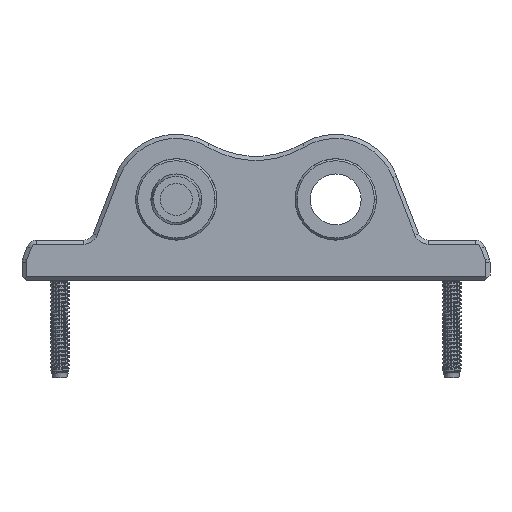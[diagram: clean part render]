
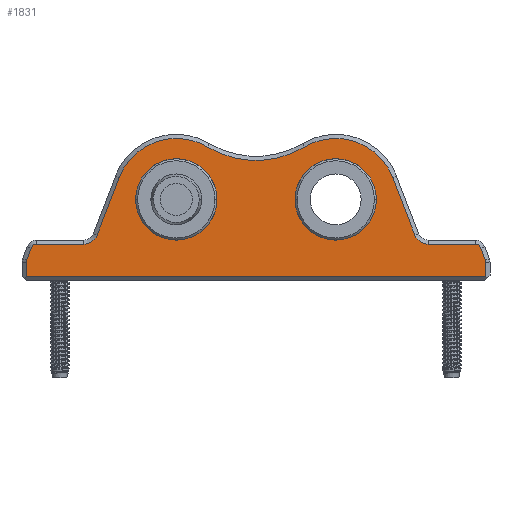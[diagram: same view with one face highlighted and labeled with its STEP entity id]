
A CAD part, front view. The second image highlights one B-rep face of the part: STEP entity #1831.
In plain terms, the highlighted planar face has unit normal (0, -1, 0).
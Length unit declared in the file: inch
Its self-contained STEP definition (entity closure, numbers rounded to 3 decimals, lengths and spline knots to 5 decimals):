
#2=CARTESIAN_POINT('',(-0.97959,-0.3075,1.));
#3=DIRECTION('',(0.,-1.,0.));
#4=DIRECTION('',(1.,0.,0.));
#5=AXIS2_PLACEMENT_3D('',#2,#3,#4);
#7=CARTESIAN_POINT('',(-0.97959,-0.3075,1.));
#8=DIRECTION('',(0.,-1.,0.));
#9=DIRECTION('',(-1.,0.,0.));
#10=AXIS2_PLACEMENT_3D('',#7,#8,#9);
#12=CARTESIAN_POINT('',(0.97959,-0.3075,1.));
#13=DIRECTION('',(0.,-1.,0.));
#14=DIRECTION('',(1.,0.,0.));
#15=AXIS2_PLACEMENT_3D('',#12,#13,#14);
#17=CARTESIAN_POINT('',(0.97959,-0.3075,1.));
#18=DIRECTION('',(0.,-1.,0.));
#19=DIRECTION('',(-1.,0.,0.));
#20=AXIS2_PLACEMENT_3D('',#17,#18,#19);
#22=DIRECTION('',(1.,0.,0.));
#23=VECTOR('',#22,5.65);
#24=CARTESIAN_POINT('',(-2.825,-0.3075,0.05));
#25=LINE('',#24,#23);
#26=DIRECTION('',(0.,0.,-1.));
#27=VECTOR('',#26,0.1768);
#28=CARTESIAN_POINT('',(-2.825,-0.3075,
0.2268));
#29=LINE('',#28,#27);
#30=CARTESIAN_POINT('',(-2.75,-0.3075,0.2268));
#31=DIRECTION('',(0.,-1.,0.));
#32=DIRECTION('',(-0.933,0.,0.359));
#33=AXIS2_PLACEMENT_3D('',#30,#31,#32);
#35=DIRECTION('',(-0.359,0.,-0.933));
#36=VECTOR('',#35,0.15877);
#37=CARTESIAN_POINT('',(-2.76303,-0.3075,
0.40191));
#38=LINE('',#37,#36);
#39=CARTESIAN_POINT('',(-2.69303,-0.3075,0.375));
#40=DIRECTION('',(0.,-1.,0.));
#41=DIRECTION('',(0.,0.,1.));
#42=AXIS2_PLACEMENT_3D('',#39,#40,#41);
#44=DIRECTION('',(-1.,0.,0.));
#45=VECTOR('',#44,0.57827);
#46=CARTESIAN_POINT('',(-2.11476,-0.3075,
0.45));
#47=LINE('',#46,#45);
#48=CARTESIAN_POINT('',(-2.11476,-0.3075,0.625));
#49=DIRECTION('',(0.,1.,0.));
#50=DIRECTION('',(0.933,0.,-0.359));
#51=AXIS2_PLACEMENT_3D('',#48,#49,#50);
#53=DIRECTION('',(-0.359,0.,-0.933));
#54=VECTOR('',#53,0.75736);
#55=CARTESIAN_POINT('',(-1.67965,-0.3075,1.26912));
#56=LINE('',#55,#54);
#57=CARTESIAN_POINT('',(-0.97959,-0.3075,1.));
#58=DIRECTION('',(0.,-1.,0.));
#59=DIRECTION('',(0.513,0.,0.858));
#60=AXIS2_PLACEMENT_3D('',#57,#58,#59);
#62=CARTESIAN_POINT('',(0.,-0.3075,2.63779));
#63=DIRECTION('',(0.,1.,0.));
#64=DIRECTION('',(0.513,0.,-0.858));
#65=AXIS2_PLACEMENT_3D('',#62,#63,#64);
#67=CARTESIAN_POINT('',(0.97959,-0.3075,1.));
#68=DIRECTION('',(0.,-1.,0.));
#69=DIRECTION('',(0.933,0.,0.359));
#70=AXIS2_PLACEMENT_3D('',#67,#68,#69);
#72=DIRECTION('',(-0.359,0.,0.933));
#73=VECTOR('',#72,0.75736);
#74=CARTESIAN_POINT('',(1.95141,-0.3075,0.5622));
#75=LINE('',#74,#73);
#76=CARTESIAN_POINT('',(2.11476,-0.3075,0.625));
#77=DIRECTION('',(0.,1.,0.));
#78=DIRECTION('',(0.,0.,-1.));
#79=AXIS2_PLACEMENT_3D('',#76,#77,#78);
#81=DIRECTION('',(-1.,0.,0.));
#82=VECTOR('',#81,0.57827);
#83=CARTESIAN_POINT('',(2.69303,-0.3075,0.45));
#84=LINE('',#83,#82);
#85=CARTESIAN_POINT('',(2.69303,-0.3075,0.375));
#86=DIRECTION('',(0.,-1.,0.));
#87=DIRECTION('',(0.933,0.,0.359));
#88=AXIS2_PLACEMENT_3D('',#85,#86,#87);
#90=DIRECTION('',(-0.359,0.,0.933));
#91=VECTOR('',#90,0.15877);
#92=CARTESIAN_POINT('',(2.82001,-0.3075,0.25371));
#93=LINE('',#92,#91);
#94=CARTESIAN_POINT('',(2.75,-0.3075,0.2268));
#95=DIRECTION('',(0.,-1.,0.));
#96=DIRECTION('',(1.,0.,0.));
#97=AXIS2_PLACEMENT_3D('',#94,#95,#96);
#99=DIRECTION('',(0.,0.,1.));
#100=VECTOR('',#99,0.1768);
#101=CARTESIAN_POINT('',(2.825,-0.3075,0.05));
#102=LINE('',#101,#100);
#1408=CARTESIAN_POINT('',(-0.48009,-0.3075,1.));
#1409=CARTESIAN_POINT('',(-1.47909,-0.3075,1.));
#1410=VERTEX_POINT('',#1408);
#1411=VERTEX_POINT('',#1409);
#1412=CARTESIAN_POINT('',(1.47909,-0.3075,1.));
#1413=CARTESIAN_POINT('',(0.48009,-0.3075,1.));
#1414=VERTEX_POINT('',#1412);
#1415=VERTEX_POINT('',#1413);
#1688=CARTESIAN_POINT('',(-2.825,-0.3075,0.05));
#1689=CARTESIAN_POINT('',(2.825,-0.3075,0.05));
#1690=VERTEX_POINT('',#1688);
#1691=VERTEX_POINT('',#1689);
#1694=CARTESIAN_POINT('',(2.825,-0.3075,0.2268));
#1695=VERTEX_POINT('',#1694);
#1698=CARTESIAN_POINT('',(2.82001,-0.3075,0.25371));
#1699=VERTEX_POINT('',#1698);
#1702=CARTESIAN_POINT('',(2.76303,-0.3075,
0.40191));
#1703=VERTEX_POINT('',#1702);
#1706=CARTESIAN_POINT('',(2.69303,-0.3075,0.45));
#1707=VERTEX_POINT('',#1706);
#1710=CARTESIAN_POINT('',(2.11476,-0.3075,
0.45));
#1711=VERTEX_POINT('',#1710);
#1714=CARTESIAN_POINT('',(1.95141,-0.3075,0.5622));
#1715=VERTEX_POINT('',#1714);
#1718=CARTESIAN_POINT('',(1.67965,-0.3075,
1.26912));
#1719=VERTEX_POINT('',#1718);
#1722=CARTESIAN_POINT('',(0.59461,-0.3075,1.64365));
#1723=VERTEX_POINT('',#1722);
#1726=CARTESIAN_POINT('',(-0.59461,-0.3075,1.64365));
#1727=VERTEX_POINT('',#1726);
#1730=CARTESIAN_POINT('',(-1.67965,-0.3075,1.26912));
#1731=VERTEX_POINT('',#1730);
#1734=CARTESIAN_POINT('',(-1.95141,-0.3075,
0.5622));
#1735=VERTEX_POINT('',#1734);
#1738=CARTESIAN_POINT('',(-2.11476,-0.3075,0.45));
#1739=VERTEX_POINT('',#1738);
#1742=CARTESIAN_POINT('',(-2.69303,-0.3075,
0.45));
#1743=VERTEX_POINT('',#1742);
#1746=CARTESIAN_POINT('',(-2.76303,-0.3075,0.40191));
#1747=VERTEX_POINT('',#1746);
#1750=CARTESIAN_POINT('',(-2.82001,-0.3075,
0.25371));
#1751=VERTEX_POINT('',#1750);
#1754=CARTESIAN_POINT('',(-2.825,-0.3075,0.2268));
#1755=VERTEX_POINT('',#1754);
#1776=CARTESIAN_POINT('',(0.,-0.3075,0.));
#1777=DIRECTION('',(0.,1.,0.));
#1778=DIRECTION('',(1.,0.,0.));
#1779=AXIS2_PLACEMENT_3D('',#1776,#1777,#1778);
#1780=PLANE('',#1779);
#1782=ORIENTED_EDGE('',*,*,#1781,.F.);
#1784=ORIENTED_EDGE('',*,*,#1783,.F.);
#1786=ORIENTED_EDGE('',*,*,#1785,.F.);
#1788=ORIENTED_EDGE('',*,*,#1787,.F.);
#1790=ORIENTED_EDGE('',*,*,#1789,.F.);
#1792=ORIENTED_EDGE('',*,*,#1791,.F.);
#1794=ORIENTED_EDGE('',*,*,#1793,.F.);
#1796=ORIENTED_EDGE('',*,*,#1795,.F.);
#1798=ORIENTED_EDGE('',*,*,#1797,.F.);
#1800=ORIENTED_EDGE('',*,*,#1799,.F.);
#1802=ORIENTED_EDGE('',*,*,#1801,.F.);
#1804=ORIENTED_EDGE('',*,*,#1803,.F.);
#1806=ORIENTED_EDGE('',*,*,#1805,.F.);
#1808=ORIENTED_EDGE('',*,*,#1807,.F.);
#1810=ORIENTED_EDGE('',*,*,#1809,.F.);
#1812=ORIENTED_EDGE('',*,*,#1811,.F.);
#1814=ORIENTED_EDGE('',*,*,#1813,.F.);
#1816=ORIENTED_EDGE('',*,*,#1815,.F.);
#1817=EDGE_LOOP('',(#1782,#1784,#1786,#1788,#1790,#1792,#1794,#1796,#1798,#1800,
#1802,#1804,#1806,#1808,#1810,#1812,#1814,#1816));
#1818=FACE_OUTER_BOUND('',#1817,.F.);
#1820=ORIENTED_EDGE('',*,*,#1819,.T.);
#1822=ORIENTED_EDGE('',*,*,#1821,.T.);
#1823=EDGE_LOOP('',(#1820,#1822));
#1824=FACE_BOUND('',#1823,.F.);
#1826=ORIENTED_EDGE('',*,*,#1825,.T.);
#1828=ORIENTED_EDGE('',*,*,#1827,.T.);
#1829=EDGE_LOOP('',(#1826,#1828));
#1830=FACE_BOUND('',#1829,.F.);
#1831=ADVANCED_FACE('',(#1818,#1824,#1830),#1780,.F.);
#6=CIRCLE('',#5,0.4995);
#11=CIRCLE('',#10,0.4995);
#16=CIRCLE('',#15,0.4995);
#21=CIRCLE('',#20,0.4995);
#34=CIRCLE('',#33,0.075);
#43=CIRCLE('',#42,0.075);
#52=CIRCLE('',#51,0.175);
#61=CIRCLE('',#60,0.75);
#66=CIRCLE('',#65,1.15839);
#71=CIRCLE('',#70,0.75);
#80=CIRCLE('',#79,0.175);
#89=CIRCLE('',#88,0.075);
#98=CIRCLE('',#97,0.075);
#1781=EDGE_CURVE('',#1690,#1691,#25,.T.);
#1783=EDGE_CURVE('',#1755,#1690,#29,.T.);
#1785=EDGE_CURVE('',#1751,#1755,#34,.T.);
#1787=EDGE_CURVE('',#1747,#1751,#38,.T.);
#1789=EDGE_CURVE('',#1743,#1747,#43,.T.);
#1791=EDGE_CURVE('',#1739,#1743,#47,.T.);
#1793=EDGE_CURVE('',#1735,#1739,#52,.T.);
#1795=EDGE_CURVE('',#1731,#1735,#56,.T.);
#1797=EDGE_CURVE('',#1727,#1731,#61,.T.);
#1799=EDGE_CURVE('',#1723,#1727,#66,.T.);
#1801=EDGE_CURVE('',#1719,#1723,#71,.T.);
#1803=EDGE_CURVE('',#1715,#1719,#75,.T.);
#1805=EDGE_CURVE('',#1711,#1715,#80,.T.);
#1807=EDGE_CURVE('',#1707,#1711,#84,.T.);
#1809=EDGE_CURVE('',#1703,#1707,#89,.T.);
#1811=EDGE_CURVE('',#1699,#1703,#93,.T.);
#1813=EDGE_CURVE('',#1695,#1699,#98,.T.);
#1815=EDGE_CURVE('',#1691,#1695,#102,.T.);
#1819=EDGE_CURVE('',#1414,#1415,#16,.T.);
#1821=EDGE_CURVE('',#1415,#1414,#21,.T.);
#1825=EDGE_CURVE('',#1410,#1411,#6,.T.);
#1827=EDGE_CURVE('',#1411,#1410,#11,.T.);
